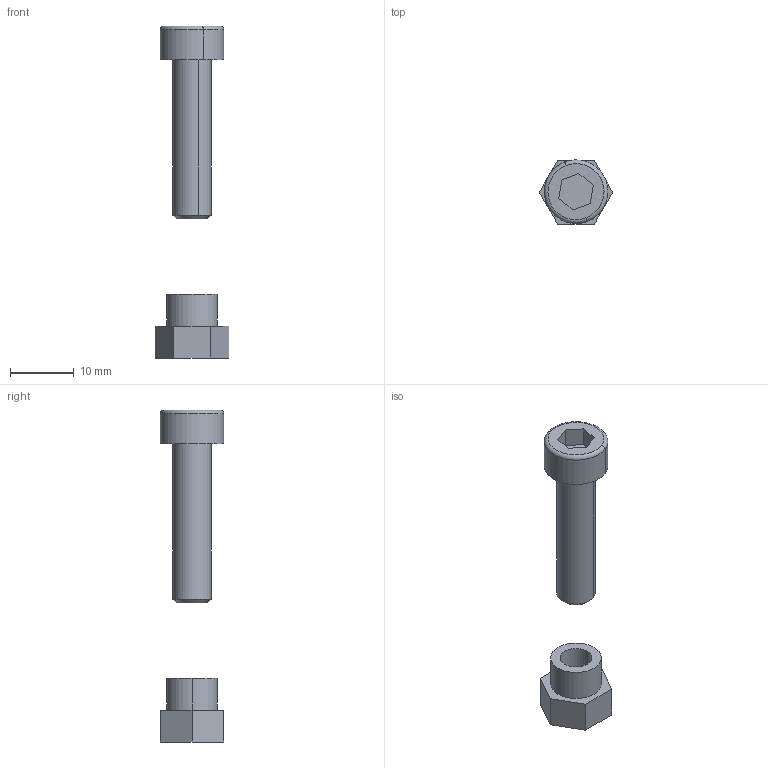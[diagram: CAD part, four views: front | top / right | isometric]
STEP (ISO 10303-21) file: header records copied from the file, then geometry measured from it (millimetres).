
FILE_DESCRIPTION (( 'STEP AP214' ), '1' );
FILE_NAME ('015.400.009.STEP', '2020-07-09T13:26:25', ( '' ), ( '' ), 'SwSTEP 2.0', 'SolidWorks 2018', '' );
FILE_SCHEMA (( 'AUTOMOTIVE_DESIGN' ));
Length unit declared in the file: millimetre
Products named in the file (3): 015.400.009; 015.400.009_DADO; 015.400.009_VITE_M6x25 UNI 5931
Assembly tree (2 placements, depth 2):
  015.400.009
    015.400.009_DADO
    015.400.009_VITE_M6x25 UNI 5931
Bounding box: 11.55 x 10 x 52.14 mm (x, y, z)
Volume: 1540.7 mm3; surface area: 1421.3 mm2
Topology: 2 solids, 2 shells, 31 faces, 68 edges, 44 vertices
Faces by surface type: plane 19, cylinder 8, torus 2, cone 2
Entity records: 988 total; most frequent: DIRECTION 162, CARTESIAN_POINT 148, ORIENTED_EDGE 136, EDGE_CURVE 68, AXIS2_PLACEMENT_3D 58, LINE 46, VECTOR 46, VERTEX_POINT 44
